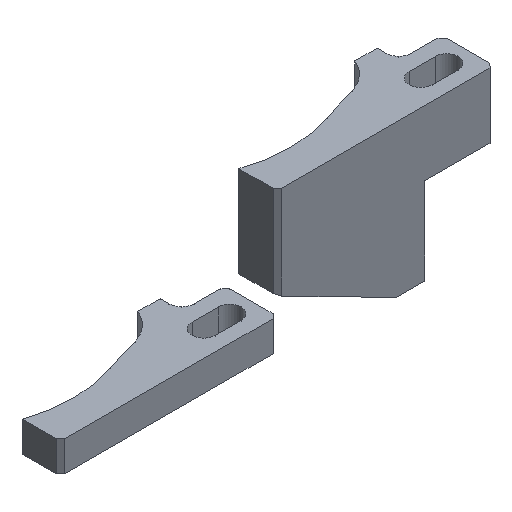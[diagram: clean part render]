
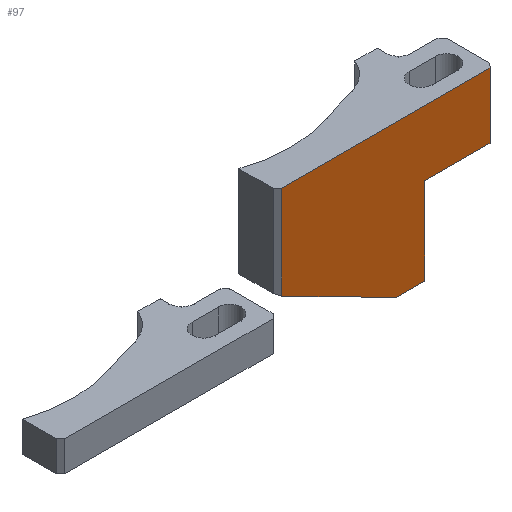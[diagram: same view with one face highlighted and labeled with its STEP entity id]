
A CAD part, isometric view. The second image highlights one B-rep face of the part: STEP entity #97.
In plain terms, the highlighted planar face has unit normal (0, -1, 0).
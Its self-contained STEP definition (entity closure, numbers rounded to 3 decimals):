
#97=ADVANCED_FACE('',(#172),#173,.F.);
#172=FACE_OUTER_BOUND('',#271,.T.);
#173=PLANE('',#272);
#271=EDGE_LOOP('',(#514,#515,#516,#517,#518,#519,#520));
#272=AXIS2_PLACEMENT_3D('',#521,#522,#523);
#514=ORIENTED_EDGE('',*,*,#728,.F.);
#515=ORIENTED_EDGE('',*,*,#785,.T.);
#516=ORIENTED_EDGE('',*,*,#776,.F.);
#517=ORIENTED_EDGE('',*,*,#784,.F.);
#518=ORIENTED_EDGE('',*,*,#760,.T.);
#519=ORIENTED_EDGE('',*,*,#742,.F.);
#520=ORIENTED_EDGE('',*,*,#729,.T.);
#521=CARTESIAN_POINT('',(-20.0,-10.0,0.0));
#522=DIRECTION('',(-0.0,1.0,0.0));
#523=DIRECTION('',(1.0,0.0,0.0));
#728=EDGE_CURVE('',#867,#858,#869,.T.);
#729=EDGE_CURVE('',#870,#858,#871,.T.);
#742=EDGE_CURVE('',#870,#891,#892,.T.);
#760=EDGE_CURVE('',#921,#891,#923,.T.);
#776=EDGE_CURVE('',#945,#947,#948,.T.);
#784=EDGE_CURVE('',#921,#945,#959,.T.);
#785=EDGE_CURVE('',#867,#947,#960,.T.);
#858=VERTEX_POINT('',#1072);
#867=VERTEX_POINT('',#1084);
#869=LINE('',#1087,#1088);
#870=VERTEX_POINT('',#1089);
#871=LINE('',#1090,#1091);
#891=VERTEX_POINT('',#1120);
#892=LINE('',#1121,#1122);
#921=VERTEX_POINT('',#1164);
#923=LINE('',#1167,#1168);
#945=VERTEX_POINT('',#1199);
#947=VERTEX_POINT('',#1202);
#948=LINE('',#1203,#1204);
#959=LINE('',#1222,#1223);
#960=LINE('',#1224,#1225);
#1072=CARTESIAN_POINT('',(-19.0,-10.0,-21.51));
#1084=CARTESIAN_POINT('',(7.477,-10.0,-35.0));
#1087=CARTESIAN_POINT('',(-10.509,-10.0,-25.836));
#1088=VECTOR('',#1383,10.0);
#1089=CARTESIAN_POINT('',(-19.0,-10.0,0.0));
#1090=CARTESIAN_POINT('',(-19.0,-10.0,0.0));
#1091=VECTOR('',#1384,10.0);
#1120=CARTESIAN_POINT('',(29.0,-10.0,0.0));
#1121=CARTESIAN_POINT('',(-20.0,-10.0,0.0));
#1122=VECTOR('',#1403,10.0);
#1164=CARTESIAN_POINT('',(29.0,-10.0,-15.0));
#1167=CARTESIAN_POINT('',(29.0,-10.0,0.0));
#1168=VECTOR('',#1427,10.0);
#1199=CARTESIAN_POINT('',(14.0,-10.0,-15.0));
#1202=CARTESIAN_POINT('',(14.0,-10.0,-35.0));
#1203=CARTESIAN_POINT('',(14.0,-10.0,-17.5));
#1204=VECTOR('',#1453,10.0);
#1222=CARTESIAN_POINT('',(-1.5,-10.0,-15.0));
#1223=VECTOR('',#1461,10.0);
#1224=CARTESIAN_POINT('',(-20.0,-10.0,-35.0));
#1225=VECTOR('',#1462,10.0);
#1383=DIRECTION('',(-0.891,0.0,0.454));
#1384=DIRECTION('',(0.0,0.0,-1.0));
#1403=DIRECTION('',(1.0,0.0,0.0));
#1427=DIRECTION('',(0.0,0.0,1.0));
#1453=DIRECTION('',(0.0,0.0,-1.0));
#1461=DIRECTION('',(-1.0,0.0,0.0));
#1462=DIRECTION('',(1.0,0.0,0.0));
